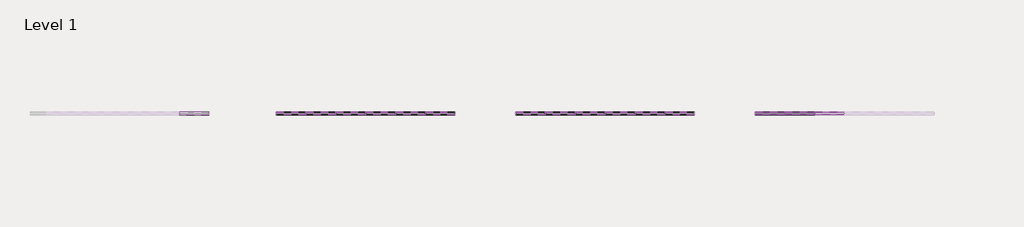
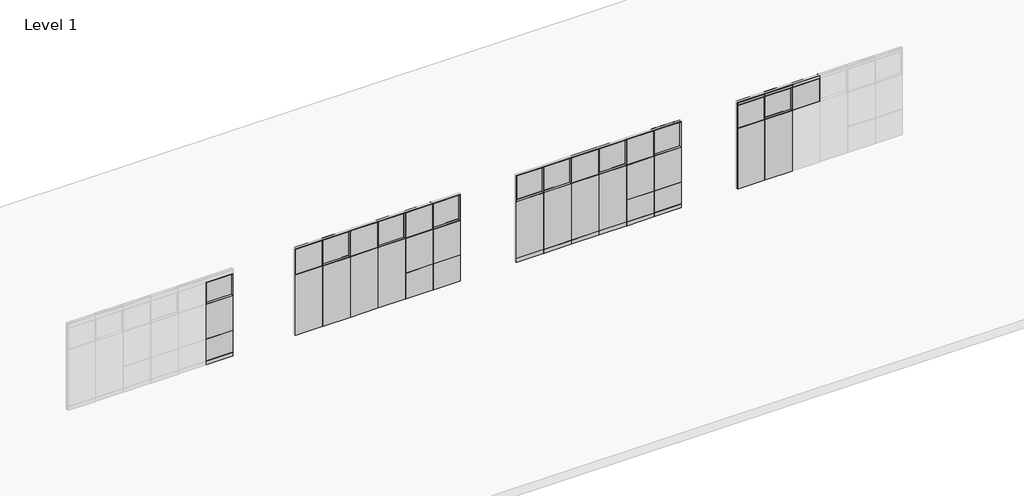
# One storey, part 14 of 22: 109 proxies.
"""IFC4 building model written with IfcOpenShell, lengths in millimetres."""

from ifc_helpers import new_model, si_unit, origin, place, context, project, spatial, transform, mapped, element, save
from components import fascia_teknion_ceiling_and_base_fpb1_0bfeef01, fascia_teknion_ceiling_and_base_fpb1_b9f04170, fascia_teknion_ceiling_and_base_fpb1_707b8d37, fascia_teknion_ceiling_and_base_fpb1_816009f4, fascia_teknion_ceiling_and_base_fpb1_c09701a2, fascia_teknion_ceiling_and_base_fpb1_cd47c96b, fascia_teknion_ceiling_and_base_fpc_0fdf7194, fascia_teknion_ceiling_and_base_fpc_b0ac7cd3, frame_teknion_horizontal_rail_5872ae1a, frame_teknion_horizontal_rail_46ee653b, glass_fascia_6f81bcf7, glass_fascia_75a64c95, glass_fascia_467b1f08, glass_fascia_2d5cffca, glass_fascia_d2a417b3, glass_fascia_b43ce2ad, glass_fascia_649ace3c, glass_fascia_c5390191, working_wall_monolithic_level_i_0fd3c68e, working_wall_monolithic_level_i_40b02bc1, level_ii_766fe766, level_ii_d745e7d9, level_ii_52e50c64, level_ii_09c6d2e8, segmented_monolithic_level_i_c740ac9f, segmented_monolithic_level_i_1ec0774b, segmented_monolithic_level_i_c631dfd0, segmented_monolithic_level_i_f7c86621, segmented_monolithic_level_i_79c8b360, segmented_monolithic_level_i_954095a9, segmented_monolithic_level_i_12355878, segmented_monolithic_level_i_a90e165b, working_wall_monolithic_level_i_0b7852cd, working_wall_monolithic_level_i_72bc8cad, working_wall_monolithic_level_i_9d4bea93, working_wall_monolithic_level_i_ddf61f7f, working_wall_monolithic_level_i_49ea217e, working_wall_monolithic_level_i_39047d6b

model = new_model("IFC4")

# Units and contexts
model_context = context("Model", 3, world=origin())
ifc_project = project(units=[si_unit("LENGTHUNIT", "METRE", prefix="MILLI")], contexts=[model_context])

# Site, building, storey
site = spatial("IfcSite", under=ifc_project)
building = spatial("IfcBuilding", under=site)
storey = spatial("IfcBuildingStorey", under=building, Name="Level 1", Elevation=0.0)

# Proxies
placement = place(None, origin())
fascia_teknion_ceiling_and_base_fpb1_shape = fascia_teknion_ceiling_and_base_fpb1_0bfeef01(model_context)
element("IfcBuildingElementProxy", 1, Name="Fascia-Teknion-Ceiling_and_Base : FPB1", ObjectType="Fascia-Teknion-Ceiling_and_Base : FPB1", at=placement, inside=storey, context=model_context, shape_type="MappedRepresentation", body=[
    mapped(fascia_teknion_ceiling_and_base_fpb1_shape, transform((36696.9908134, 1843.3402105, 15.875), x_axis=(1.0, 0.0, 0.0), y_axis=(0.0, 1.0, 0.0), z_axis=(0.0, 0.0, 1.0))),
])
element("IfcBuildingElementProxy", 2, Name="Fascia-Teknion-Ceiling_and_Base : FPB1", ObjectType="Fascia-Teknion-Ceiling_and_Base : FPB1", at=placement, inside=storey, context=model_context, shape_type="MappedRepresentation", body=[
    mapped(fascia_teknion_ceiling_and_base_fpb1_shape, transform((41255.0009696, 1843.3402105, 15.875), x_axis=(1.0, 0.0, 0.0), y_axis=(0.0, 1.0, 0.0), z_axis=(0.0, 0.0, 1.0))),
])
fascia_teknion_ceiling_and_base_fpb1_2_shape = fascia_teknion_ceiling_and_base_fpb1_b9f04170(model_context)
element("IfcBuildingElementProxy", 3, Name="Fascia-Teknion-Ceiling_and_Base : FPB1", ObjectType="Fascia-Teknion-Ceiling_and_Base : FPB1", at=placement, inside=storey, context=model_context, shape_type="MappedRepresentation", body=[
    mapped(fascia_teknion_ceiling_and_base_fpb1_2_shape, transform((36696.9908134, 1781.3642105, 15.875), x_axis=(1.0, 0.0, 0.0), y_axis=(0.0, 1.0, 0.0), z_axis=(0.0, 0.0, 1.0))),
])
element("IfcBuildingElementProxy", 4, Name="Fascia-Teknion-Ceiling_and_Base : FPB1", ObjectType="Fascia-Teknion-Ceiling_and_Base : FPB1", at=placement, inside=storey, context=model_context, shape_type="MappedRepresentation", body=[
    mapped(fascia_teknion_ceiling_and_base_fpb1_2_shape, transform((41255.0009696, 1781.3642105, 15.875), x_axis=(1.0, 0.0, 0.0), y_axis=(0.0, 1.0, 0.0), z_axis=(0.0, 0.0, 1.0))),
])
element("IfcBuildingElementProxy", 5, Name="Fascia-Teknion-Ceiling_and_Base : FPB1", ObjectType="Fascia-Teknion-Ceiling_and_Base : FPB1", at=placement, inside=storey, context=model_context, shape_type="MappedRepresentation", body=[
    mapped(fascia_teknion_ceiling_and_base_fpb1_2_shape, transform((26421.4009696, 1781.3642105, 15.875), x_axis=(1.0, 0.0, 0.0), y_axis=(0.0, 1.0, 0.0), z_axis=(0.0, 0.0, 1.0))),
])
fascia_teknion_ceiling_and_base_fpb1_3_shape = fascia_teknion_ceiling_and_base_fpb1_707b8d37(model_context)
element("IfcBuildingElementProxy", 6, Name="Fascia-Teknion-Ceiling_and_Base : FPB1", ObjectType="Fascia-Teknion-Ceiling_and_Base : FPB1", at=placement, inside=storey, context=model_context, shape_type="MappedRepresentation", body=[
    mapped(fascia_teknion_ceiling_and_base_fpb1_3_shape, transform((40347.5958915, 1781.3642105, 15.875), x_axis=(1.0, 0.0, 0.0), y_axis=(0.0, 1.0, 0.0), z_axis=(0.0, 0.0, 1.0))),
])
element("IfcBuildingElementProxy", 7, Name="Fascia-Teknion-Ceiling_and_Base : FPB1", ObjectType="Fascia-Teknion-Ceiling_and_Base : FPB1", at=placement, inside=storey, context=model_context, shape_type="MappedRepresentation", body=[
    mapped(fascia_teknion_ceiling_and_base_fpb1_3_shape, transform((39433.1958915, 1781.3642105, 15.875), x_axis=(1.0, 0.0, 0.0), y_axis=(0.0, 1.0, 0.0), z_axis=(0.0, 0.0, 1.0))),
])
element("IfcBuildingElementProxy", 8, Name="Fascia-Teknion-Ceiling_and_Base : FPB1", ObjectType="Fascia-Teknion-Ceiling_and_Base : FPB1", at=placement, inside=storey, context=model_context, shape_type="MappedRepresentation", body=[
    mapped(fascia_teknion_ceiling_and_base_fpb1_3_shape, transform((38518.7958915, 1781.3642105, 15.875), x_axis=(1.0, 0.0, 0.0), y_axis=(0.0, 1.0, 0.0), z_axis=(0.0, 0.0, 1.0))),
])
element("IfcBuildingElementProxy", 9, Name="Fascia-Teknion-Ceiling_and_Base : FPB1", ObjectType="Fascia-Teknion-Ceiling_and_Base : FPB1", at=placement, inside=storey, context=model_context, shape_type="MappedRepresentation", body=[
    mapped(fascia_teknion_ceiling_and_base_fpb1_3_shape, transform((37604.3958915, 1781.3642105, 15.875), x_axis=(1.0, 0.0, 0.0), y_axis=(0.0, 1.0, 0.0), z_axis=(0.0, 0.0, 1.0))),
])
fascia_teknion_ceiling_and_base_fpb1_4_shape = fascia_teknion_ceiling_and_base_fpb1_816009f4(model_context)
element("IfcBuildingElementProxy", 10, Name="Fascia-Teknion-Ceiling_and_Base : FPB1", ObjectType="Fascia-Teknion-Ceiling_and_Base : FPB1", at=placement, inside=storey, context=model_context, shape_type="MappedRepresentation", body=[
    mapped(fascia_teknion_ceiling_and_base_fpb1_4_shape, transform((40347.5958915, 1843.3402105, 15.875), x_axis=(1.0, 0.0, 0.0), y_axis=(0.0, 1.0, 0.0), z_axis=(0.0, 0.0, 1.0))),
])
element("IfcBuildingElementProxy", 11, Name="Fascia-Teknion-Ceiling_and_Base : FPB1", ObjectType="Fascia-Teknion-Ceiling_and_Base : FPB1", at=placement, inside=storey, context=model_context, shape_type="MappedRepresentation", body=[
    mapped(fascia_teknion_ceiling_and_base_fpb1_4_shape, transform((39433.1958915, 1843.3402105, 15.875), x_axis=(1.0, 0.0, 0.0), y_axis=(0.0, 1.0, 0.0), z_axis=(0.0, 0.0, 1.0))),
])
element("IfcBuildingElementProxy", 12, Name="Fascia-Teknion-Ceiling_and_Base : FPB1", ObjectType="Fascia-Teknion-Ceiling_and_Base : FPB1", at=placement, inside=storey, context=model_context, shape_type="MappedRepresentation", body=[
    mapped(fascia_teknion_ceiling_and_base_fpb1_4_shape, transform((38518.7958915, 1843.3402105, 15.875), x_axis=(1.0, 0.0, 0.0), y_axis=(0.0, 1.0, 0.0), z_axis=(0.0, 0.0, 1.0))),
])
element("IfcBuildingElementProxy", 13, Name="Fascia-Teknion-Ceiling_and_Base : FPB1", ObjectType="Fascia-Teknion-Ceiling_and_Base : FPB1", at=placement, inside=storey, context=model_context, shape_type="MappedRepresentation", body=[
    mapped(fascia_teknion_ceiling_and_base_fpb1_4_shape, transform((37604.3958915, 1843.3402105, 15.875), x_axis=(1.0, 0.0, 0.0), y_axis=(0.0, 1.0, 0.0), z_axis=(0.0, 0.0, 1.0))),
])
fascia_teknion_ceiling_and_base_fpb1_5_shape = fascia_teknion_ceiling_and_base_fpb1_c09701a2(model_context)
element("IfcBuildingElementProxy", 14, Name="Fascia-Teknion-Ceiling_and_Base : FPC", ObjectType="Fascia-Teknion-Ceiling_and_Base : FPC", at=placement, inside=storey, context=model_context, shape_type="MappedRepresentation", body=[
    mapped(fascia_teknion_ceiling_and_base_fpb1_5_shape, transform((44012.1908134, 1781.3642105, 2950.845), x_axis=(1.0, 0.0, 0.0), y_axis=(0.0, 1.0, 0.0), z_axis=(0.0, 0.0, 1.0))),
])
fascia_teknion_ceiling_and_base_fpb1_6_shape = fascia_teknion_ceiling_and_base_fpb1_cd47c96b(model_context)
element("IfcBuildingElementProxy", 15, Name="Fascia-Teknion-Ceiling_and_Base : FPC", ObjectType="Fascia-Teknion-Ceiling_and_Base : FPC", at=placement, inside=storey, context=model_context, shape_type="MappedRepresentation", body=[
    mapped(fascia_teknion_ceiling_and_base_fpb1_6_shape, transform((44012.1908134, 1843.3402105, 2950.845), x_axis=(1.0, 0.0, 0.0), y_axis=(0.0, 1.0, 0.0), z_axis=(0.0, 0.0, 1.0))),
])
fascia_teknion_ceiling_and_base_fpc_shape = fascia_teknion_ceiling_and_base_fpc_0fdf7194(model_context)
element("IfcBuildingElementProxy", 16, Name="Fascia-Teknion-Ceiling_and_Base : FPC", ObjectType="Fascia-Teknion-Ceiling_and_Base : FPC", at=placement, inside=storey, context=model_context, shape_type="MappedRepresentation", body=[
    mapped(fascia_teknion_ceiling_and_base_fpc_shape, transform((45833.9958915, 1781.3642105, 2950.845), x_axis=(1.0, 0.0, 0.0), y_axis=(0.0, 1.0, 0.0), z_axis=(0.0, 0.0, 1.0))),
])
element("IfcBuildingElementProxy", 17, Name="Fascia-Teknion-Ceiling_and_Base : FPC", ObjectType="Fascia-Teknion-Ceiling_and_Base : FPC", at=placement, inside=storey, context=model_context, shape_type="MappedRepresentation", body=[
    mapped(fascia_teknion_ceiling_and_base_fpc_shape, transform((44919.5958915, 1781.3642105, 2950.845), x_axis=(1.0, 0.0, 0.0), y_axis=(0.0, 1.0, 0.0), z_axis=(0.0, 0.0, 1.0))),
])
fascia_teknion_ceiling_and_base_fpc_2_shape = fascia_teknion_ceiling_and_base_fpc_b0ac7cd3(model_context)
element("IfcBuildingElementProxy", 18, Name="Fascia-Teknion-Ceiling_and_Base : FPC", ObjectType="Fascia-Teknion-Ceiling_and_Base : FPC", at=placement, inside=storey, context=model_context, shape_type="MappedRepresentation", body=[
    mapped(fascia_teknion_ceiling_and_base_fpc_2_shape, transform((45833.9958915, 1843.3402105, 2950.845), x_axis=(1.0, 0.0, 0.0), y_axis=(0.0, 1.0, 0.0), z_axis=(0.0, 0.0, 1.0))),
])
element("IfcBuildingElementProxy", 19, Name="Fascia-Teknion-Ceiling_and_Base : FPC", ObjectType="Fascia-Teknion-Ceiling_and_Base : FPC", at=placement, inside=storey, context=model_context, shape_type="MappedRepresentation", body=[
    mapped(fascia_teknion_ceiling_and_base_fpc_2_shape, transform((44919.5958915, 1843.3402105, 2950.845), x_axis=(1.0, 0.0, 0.0), y_axis=(0.0, 1.0, 0.0), z_axis=(0.0, 0.0, 1.0))),
])
frame_teknion_horizontal_rail_shape = frame_teknion_horizontal_rail_5872ae1a(model_context)
element("IfcBuildingElementProxy", 20, Name="Frame-Teknion-Horizontal_Rail : FPKK", ObjectType="Frame-Teknion-Horizontal_Rail : FPKK", at=placement, inside=storey, context=model_context, shape_type="MappedRepresentation", body=[
    mapped(frame_teknion_horizontal_rail_shape, transform((29381.7908134, 1812.3522105, 2136.775), x_axis=(1.0, 0.0, 0.0), y_axis=(0.0, 1.0, 0.0), z_axis=(0.0, 0.0, 1.0))),
])
element("IfcBuildingElementProxy", 21, Name="Frame-Teknion-Horizontal_Rail : FPKK", ObjectType="Frame-Teknion-Horizontal_Rail : FPKK", at=placement, inside=storey, context=model_context, shape_type="MappedRepresentation", body=[
    mapped(frame_teknion_horizontal_rail_shape, transform((33939.8009696, 1812.3522105, 2136.775), x_axis=(1.0, 0.0, 0.0), y_axis=(0.0, 1.0, 0.0), z_axis=(0.0, 0.0, 1.0))),
])
element("IfcBuildingElementProxy", 22, Name="Frame-Teknion-Horizontal_Rail : FPKK", ObjectType="Frame-Teknion-Horizontal_Rail : FPKK", at=placement, inside=storey, context=model_context, shape_type="MappedRepresentation", body=[
    mapped(frame_teknion_horizontal_rail_shape, transform((33939.8009696, 1812.3522105, 917.575), x_axis=(1.0, 0.0, 0.0), y_axis=(0.0, 1.0, 0.0), z_axis=(0.0, 0.0, 1.0))),
])
element("IfcBuildingElementProxy", 23, Name="Frame-Teknion-Horizontal_Rail : FPKK", ObjectType="Frame-Teknion-Horizontal_Rail : FPKK", at=placement, inside=storey, context=model_context, shape_type="MappedRepresentation", body=[
    mapped(frame_teknion_horizontal_rail_shape, transform((36696.9908134, 1812.3522105, 151.257), x_axis=(1.0, 0.0, 0.0), y_axis=(0.0, 1.0, 0.0), z_axis=(0.0, 0.0, 1.0))),
])
element("IfcBuildingElementProxy", 24, Name="Frame-Teknion-Horizontal_Rail : FPKK", ObjectType="Frame-Teknion-Horizontal_Rail : FPKK", at=placement, inside=storey, context=model_context, shape_type="MappedRepresentation", body=[
    mapped(frame_teknion_horizontal_rail_shape, transform((36696.9908134, 1812.3522105, 2136.775), x_axis=(1.0, 0.0, 0.0), y_axis=(0.0, 1.0, 0.0), z_axis=(0.0, 0.0, 1.0))),
])
element("IfcBuildingElementProxy", 25, Name="Frame-Teknion-Horizontal_Rail : FPKK", ObjectType="Frame-Teknion-Horizontal_Rail : FPKK", at=placement, inside=storey, context=model_context, shape_type="MappedRepresentation", body=[
    mapped(frame_teknion_horizontal_rail_shape, transform((41255.0009696, 1812.3522105, 2136.775), x_axis=(1.0, 0.0, 0.0), y_axis=(0.0, 1.0, 0.0), z_axis=(0.0, 0.0, 1.0))),
])
element("IfcBuildingElementProxy", 26, Name="Frame-Teknion-Horizontal_Rail : FPKK", ObjectType="Frame-Teknion-Horizontal_Rail : FPKK", at=placement, inside=storey, context=model_context, shape_type="MappedRepresentation", body=[
    mapped(frame_teknion_horizontal_rail_shape, transform((41255.0009696, 1812.3522105, 151.257), x_axis=(1.0, 0.0, 0.0), y_axis=(0.0, 1.0, 0.0), z_axis=(0.0, 0.0, 1.0))),
])
element("IfcBuildingElementProxy", 27, Name="Frame-Teknion-Horizontal_Rail : FPKK", ObjectType="Frame-Teknion-Horizontal_Rail : FPKK", at=placement, inside=storey, context=model_context, shape_type="MappedRepresentation", body=[
    mapped(frame_teknion_horizontal_rail_shape, transform((41255.0009696, 1812.3522105, 917.575), x_axis=(1.0, 0.0, 0.0), y_axis=(0.0, 1.0, 0.0), z_axis=(0.0, 0.0, 1.0))),
])
element("IfcBuildingElementProxy", 28, Name="Frame-Teknion-Horizontal_Rail : FPKK", ObjectType="Frame-Teknion-Horizontal_Rail : FPKK", at=placement, inside=storey, context=model_context, shape_type="MappedRepresentation", body=[
    mapped(frame_teknion_horizontal_rail_shape, transform((44012.1908134, 1812.3522105, 2949.1305), x_axis=(1.0, 0.0, 0.0), y_axis=(0.0, 1.0, 0.0), z_axis=(0.0, 0.0, 1.0))),
])
element("IfcBuildingElementProxy", 29, Name="Frame-Teknion-Horizontal_Rail : FPKK", ObjectType="Frame-Teknion-Horizontal_Rail : FPKK", at=placement, inside=storey, context=model_context, shape_type="MappedRepresentation", body=[
    mapped(frame_teknion_horizontal_rail_shape, transform((44012.1908134, 1812.3522105, 2136.775), x_axis=(1.0, 0.0, 0.0), y_axis=(0.0, 1.0, 0.0), z_axis=(0.0, 0.0, 1.0))),
])
frame_teknion_horizontal_rail_2_shape = frame_teknion_horizontal_rail_46ee653b(model_context)
element("IfcBuildingElementProxy", 30, Name="Frame-Teknion-Horizontal_Rail : FPKK", ObjectType="Frame-Teknion-Horizontal_Rail : FPKK", at=placement, inside=storey, context=model_context, shape_type="MappedRepresentation", body=[
    mapped(frame_teknion_horizontal_rail_2_shape, transform((33032.3958915, 1812.3522105, 2136.775), x_axis=(1.0, 0.0, 0.0), y_axis=(0.0, 1.0, 0.0), z_axis=(0.0, 0.0, 1.0))),
])
element("IfcBuildingElementProxy", 31, Name="Frame-Teknion-Horizontal_Rail : FPKK", ObjectType="Frame-Teknion-Horizontal_Rail : FPKK", at=placement, inside=storey, context=model_context, shape_type="MappedRepresentation", body=[
    mapped(frame_teknion_horizontal_rail_2_shape, transform((32117.9958915, 1812.3522105, 2136.775), x_axis=(1.0, 0.0, 0.0), y_axis=(0.0, 1.0, 0.0), z_axis=(0.0, 0.0, 1.0))),
])
element("IfcBuildingElementProxy", 32, Name="Frame-Teknion-Horizontal_Rail : FPKK", ObjectType="Frame-Teknion-Horizontal_Rail : FPKK", at=placement, inside=storey, context=model_context, shape_type="MappedRepresentation", body=[
    mapped(frame_teknion_horizontal_rail_2_shape, transform((31203.5958915, 1812.3522105, 2136.775), x_axis=(1.0, 0.0, 0.0), y_axis=(0.0, 1.0, 0.0), z_axis=(0.0, 0.0, 1.0))),
])
element("IfcBuildingElementProxy", 33, Name="Frame-Teknion-Horizontal_Rail : FPKK", ObjectType="Frame-Teknion-Horizontal_Rail : FPKK", at=placement, inside=storey, context=model_context, shape_type="MappedRepresentation", body=[
    mapped(frame_teknion_horizontal_rail_2_shape, transform((30289.1958915, 1812.3522105, 2136.775), x_axis=(1.0, 0.0, 0.0), y_axis=(0.0, 1.0, 0.0), z_axis=(0.0, 0.0, 1.0))),
])
element("IfcBuildingElementProxy", 34, Name="Frame-Teknion-Horizontal_Rail : FPKK", ObjectType="Frame-Teknion-Horizontal_Rail : FPKK", at=placement, inside=storey, context=model_context, shape_type="MappedRepresentation", body=[
    mapped(frame_teknion_horizontal_rail_2_shape, transform((31203.5958915, 1812.3522105, 917.575), x_axis=(1.0, 0.0, 0.0), y_axis=(0.0, 1.0, 0.0), z_axis=(0.0, 0.0, 1.0))),
])
element("IfcBuildingElementProxy", 35, Name="Frame-Teknion-Horizontal_Rail : FPKK", ObjectType="Frame-Teknion-Horizontal_Rail : FPKK", at=placement, inside=storey, context=model_context, shape_type="MappedRepresentation", body=[
    mapped(frame_teknion_horizontal_rail_2_shape, transform((32117.9958915, 1812.3522105, 917.575), x_axis=(1.0, 0.0, 0.0), y_axis=(0.0, 1.0, 0.0), z_axis=(0.0, 0.0, 1.0))),
])
element("IfcBuildingElementProxy", 36, Name="Frame-Teknion-Horizontal_Rail : FPKK", ObjectType="Frame-Teknion-Horizontal_Rail : FPKK", at=placement, inside=storey, context=model_context, shape_type="MappedRepresentation", body=[
    mapped(frame_teknion_horizontal_rail_2_shape, transform((33032.3958915, 1812.3522105, 917.575), x_axis=(1.0, 0.0, 0.0), y_axis=(0.0, 1.0, 0.0), z_axis=(0.0, 0.0, 1.0))),
])
element("IfcBuildingElementProxy", 37, Name="Frame-Teknion-Horizontal_Rail : FPKK", ObjectType="Frame-Teknion-Horizontal_Rail : FPKK", at=placement, inside=storey, context=model_context, shape_type="MappedRepresentation", body=[
    mapped(frame_teknion_horizontal_rail_2_shape, transform((40347.5958915, 1812.3522105, 2136.775), x_axis=(1.0, 0.0, 0.0), y_axis=(0.0, 1.0, 0.0), z_axis=(0.0, 0.0, 1.0))),
])
element("IfcBuildingElementProxy", 38, Name="Frame-Teknion-Horizontal_Rail : FPKK", ObjectType="Frame-Teknion-Horizontal_Rail : FPKK", at=placement, inside=storey, context=model_context, shape_type="MappedRepresentation", body=[
    mapped(frame_teknion_horizontal_rail_2_shape, transform((40347.5958915, 1812.3522105, 151.257), x_axis=(1.0, 0.0, 0.0), y_axis=(0.0, 1.0, 0.0), z_axis=(0.0, 0.0, 1.0))),
])
element("IfcBuildingElementProxy", 39, Name="Frame-Teknion-Horizontal_Rail : FPKK", ObjectType="Frame-Teknion-Horizontal_Rail : FPKK", at=placement, inside=storey, context=model_context, shape_type="MappedRepresentation", body=[
    mapped(frame_teknion_horizontal_rail_2_shape, transform((39433.1958915, 1812.3522105, 2136.775), x_axis=(1.0, 0.0, 0.0), y_axis=(0.0, 1.0, 0.0), z_axis=(0.0, 0.0, 1.0))),
])
element("IfcBuildingElementProxy", 40, Name="Frame-Teknion-Horizontal_Rail : FPKK", ObjectType="Frame-Teknion-Horizontal_Rail : FPKK", at=placement, inside=storey, context=model_context, shape_type="MappedRepresentation", body=[
    mapped(frame_teknion_horizontal_rail_2_shape, transform((39433.1958915, 1812.3522105, 151.257), x_axis=(1.0, 0.0, 0.0), y_axis=(0.0, 1.0, 0.0), z_axis=(0.0, 0.0, 1.0))),
])
element("IfcBuildingElementProxy", 41, Name="Frame-Teknion-Horizontal_Rail : FPKK", ObjectType="Frame-Teknion-Horizontal_Rail : FPKK", at=placement, inside=storey, context=model_context, shape_type="MappedRepresentation", body=[
    mapped(frame_teknion_horizontal_rail_2_shape, transform((38518.7958915, 1812.3522105, 2136.775), x_axis=(1.0, 0.0, 0.0), y_axis=(0.0, 1.0, 0.0), z_axis=(0.0, 0.0, 1.0))),
])
element("IfcBuildingElementProxy", 42, Name="Frame-Teknion-Horizontal_Rail : FPKK", ObjectType="Frame-Teknion-Horizontal_Rail : FPKK", at=placement, inside=storey, context=model_context, shape_type="MappedRepresentation", body=[
    mapped(frame_teknion_horizontal_rail_2_shape, transform((38518.7958915, 1812.3522105, 151.257), x_axis=(1.0, 0.0, 0.0), y_axis=(0.0, 1.0, 0.0), z_axis=(0.0, 0.0, 1.0))),
])
element("IfcBuildingElementProxy", 43, Name="Frame-Teknion-Horizontal_Rail : FPKK", ObjectType="Frame-Teknion-Horizontal_Rail : FPKK", at=placement, inside=storey, context=model_context, shape_type="MappedRepresentation", body=[
    mapped(frame_teknion_horizontal_rail_2_shape, transform((37604.3958915, 1812.3522105, 2136.775), x_axis=(1.0, 0.0, 0.0), y_axis=(0.0, 1.0, 0.0), z_axis=(0.0, 0.0, 1.0))),
])
element("IfcBuildingElementProxy", 44, Name="Frame-Teknion-Horizontal_Rail : FPKK", ObjectType="Frame-Teknion-Horizontal_Rail : FPKK", at=placement, inside=storey, context=model_context, shape_type="MappedRepresentation", body=[
    mapped(frame_teknion_horizontal_rail_2_shape, transform((37604.3958915, 1812.3522105, 151.257), x_axis=(1.0, 0.0, 0.0), y_axis=(0.0, 1.0, 0.0), z_axis=(0.0, 0.0, 1.0))),
])
element("IfcBuildingElementProxy", 45, Name="Frame-Teknion-Horizontal_Rail : FPKK", ObjectType="Frame-Teknion-Horizontal_Rail : FPKK", at=placement, inside=storey, context=model_context, shape_type="MappedRepresentation", body=[
    mapped(frame_teknion_horizontal_rail_2_shape, transform((40347.5958915, 1812.3522105, 917.575), x_axis=(1.0, 0.0, 0.0), y_axis=(0.0, 1.0, 0.0), z_axis=(0.0, 0.0, 1.0))),
])
element("IfcBuildingElementProxy", 46, Name="Frame-Teknion-Horizontal_Rail : FPKK", ObjectType="Frame-Teknion-Horizontal_Rail : FPKK", at=placement, inside=storey, context=model_context, shape_type="MappedRepresentation", body=[
    mapped(frame_teknion_horizontal_rail_2_shape, transform((45833.9958915, 1812.3522105, 2136.775), x_axis=(1.0, 0.0, 0.0), y_axis=(0.0, 1.0, 0.0), z_axis=(0.0, 0.0, 1.0))),
])
element("IfcBuildingElementProxy", 47, Name="Frame-Teknion-Horizontal_Rail : FPKK", ObjectType="Frame-Teknion-Horizontal_Rail : FPKK", at=placement, inside=storey, context=model_context, shape_type="MappedRepresentation", body=[
    mapped(frame_teknion_horizontal_rail_2_shape, transform((45833.9958915, 1812.3522105, 2949.1305), x_axis=(1.0, 0.0, 0.0), y_axis=(0.0, 1.0, 0.0), z_axis=(0.0, 0.0, 1.0))),
])
element("IfcBuildingElementProxy", 48, Name="Frame-Teknion-Horizontal_Rail : FPKK", ObjectType="Frame-Teknion-Horizontal_Rail : FPKK", at=placement, inside=storey, context=model_context, shape_type="MappedRepresentation", body=[
    mapped(frame_teknion_horizontal_rail_2_shape, transform((44919.5958915, 1812.3522105, 2136.775), x_axis=(1.0, 0.0, 0.0), y_axis=(0.0, 1.0, 0.0), z_axis=(0.0, 0.0, 1.0))),
])
element("IfcBuildingElementProxy", 49, Name="Frame-Teknion-Horizontal_Rail : FPKK", ObjectType="Frame-Teknion-Horizontal_Rail : FPKK", at=placement, inside=storey, context=model_context, shape_type="MappedRepresentation", body=[
    mapped(frame_teknion_horizontal_rail_2_shape, transform((44919.5958915, 1812.3522105, 2949.1305), x_axis=(1.0, 0.0, 0.0), y_axis=(0.0, 1.0, 0.0), z_axis=(0.0, 0.0, 1.0))),
])
glass_fascia_shape = glass_fascia_6f81bcf7(model_context)
element("IfcBuildingElementProxy", 50, Name="Panel-Fascia-Teknion-Altos-Glass : Glass Fascia", ObjectType="Panel-Fascia-Teknion-Altos-Glass : Glass Fascia", at=placement, inside=storey, context=model_context, shape_type="MappedRepresentation", body=[
    mapped(glass_fascia_shape, transform((29381.7908134, 1812.3522105, 2136.775), x_axis=(1.0, 0.0, 0.0), y_axis=(0.0, 1.0, 0.0), z_axis=(0.0, 0.0, 1.0))),
])
glass_fascia_2_shape = glass_fascia_75a64c95(model_context)
element("IfcBuildingElementProxy", 51, Name="Panel-Fascia-Teknion-Altos-Glass : Glass Fascia", ObjectType="Panel-Fascia-Teknion-Altos-Glass : Glass Fascia", at=placement, inside=storey, context=model_context, shape_type="MappedRepresentation", body=[
    mapped(glass_fascia_2_shape, transform((33939.8009696, 1812.3522105, 2136.775), x_axis=(1.0, 0.0, 0.0), y_axis=(0.0, 1.0, 0.0), z_axis=(0.0, 0.0, 1.0))),
])
element("IfcBuildingElementProxy", 52, Name="Panel-Fascia-Teknion-Altos-Glass : Glass Fascia", ObjectType="Panel-Fascia-Teknion-Altos-Glass : Glass Fascia", at=placement, inside=storey, context=model_context, shape_type="MappedRepresentation", body=[
    mapped(glass_fascia_2_shape, transform((36696.9908134, 1812.3522105, 2136.775), x_axis=(1.0, 0.0, 0.0), y_axis=(0.0, 1.0, 0.0), z_axis=(0.0, 0.0, 1.0))),
])
element("IfcBuildingElementProxy", 53, Name="Panel-Fascia-Teknion-Altos-Glass : Glass Fascia", ObjectType="Panel-Fascia-Teknion-Altos-Glass : Glass Fascia", at=placement, inside=storey, context=model_context, shape_type="MappedRepresentation", body=[
    mapped(glass_fascia_2_shape, transform((41255.0009696, 1812.3522105, 2136.775), x_axis=(1.0, 0.0, 0.0), y_axis=(0.0, 1.0, 0.0), z_axis=(0.0, 0.0, 1.0))),
])
glass_fascia_3_shape = glass_fascia_467b1f08(model_context)
element("IfcBuildingElementProxy", 54, Name="Panel-Fascia-Teknion-Altos-Glass : Glass Fascia", ObjectType="Panel-Fascia-Teknion-Altos-Glass : Glass Fascia", at=placement, inside=storey, context=model_context, shape_type="MappedRepresentation", body=[
    mapped(glass_fascia_3_shape, transform((33032.3958915, 1812.3522105, 2136.775), x_axis=(1.0, 0.0, 0.0), y_axis=(0.0, 1.0, 0.0), z_axis=(0.0, 0.0, 1.0))),
])
element("IfcBuildingElementProxy", 55, Name="Panel-Fascia-Teknion-Altos-Glass : Glass Fascia", ObjectType="Panel-Fascia-Teknion-Altos-Glass : Glass Fascia", at=placement, inside=storey, context=model_context, shape_type="MappedRepresentation", body=[
    mapped(glass_fascia_3_shape, transform((31203.5958915, 1812.3522105, 2136.775), x_axis=(1.0, 0.0, 0.0), y_axis=(0.0, 1.0, 0.0), z_axis=(0.0, 0.0, 1.0))),
])
element("IfcBuildingElementProxy", 56, Name="Panel-Fascia-Teknion-Altos-Glass : Glass Fascia", ObjectType="Panel-Fascia-Teknion-Altos-Glass : Glass Fascia", at=placement, inside=storey, context=model_context, shape_type="MappedRepresentation", body=[
    mapped(glass_fascia_3_shape, transform((40347.5958915, 1812.3522105, 2136.775), x_axis=(1.0, 0.0, 0.0), y_axis=(0.0, 1.0, 0.0), z_axis=(0.0, 0.0, 1.0))),
])
element("IfcBuildingElementProxy", 57, Name="Panel-Fascia-Teknion-Altos-Glass : Glass Fascia", ObjectType="Panel-Fascia-Teknion-Altos-Glass : Glass Fascia", at=placement, inside=storey, context=model_context, shape_type="MappedRepresentation", body=[
    mapped(glass_fascia_3_shape, transform((38518.7958915, 1812.3522105, 2136.775), x_axis=(1.0, 0.0, 0.0), y_axis=(0.0, 1.0, 0.0), z_axis=(0.0, 0.0, 1.0))),
])
glass_fascia_4_shape = glass_fascia_2d5cffca(model_context)
element("IfcBuildingElementProxy", 58, Name="Panel-Fascia-Teknion-Altos-Glass : Glass Fascia", ObjectType="Panel-Fascia-Teknion-Altos-Glass : Glass Fascia", at=placement, inside=storey, context=model_context, shape_type="MappedRepresentation", body=[
    mapped(glass_fascia_4_shape, transform((32117.9958915, 1812.3522105, 2136.775), x_axis=(1.0, 0.0, 0.0), y_axis=(0.0, 1.0, 0.0), z_axis=(0.0, 0.0, 1.0))),
])
element("IfcBuildingElementProxy", 59, Name="Panel-Fascia-Teknion-Altos-Glass : Glass Fascia", ObjectType="Panel-Fascia-Teknion-Altos-Glass : Glass Fascia", at=placement, inside=storey, context=model_context, shape_type="MappedRepresentation", body=[
    mapped(glass_fascia_4_shape, transform((30289.1958915, 1812.3522105, 2136.775), x_axis=(1.0, 0.0, 0.0), y_axis=(0.0, 1.0, 0.0), z_axis=(0.0, 0.0, 1.0))),
])
element("IfcBuildingElementProxy", 60, Name="Panel-Fascia-Teknion-Altos-Glass : Glass Fascia", ObjectType="Panel-Fascia-Teknion-Altos-Glass : Glass Fascia", at=placement, inside=storey, context=model_context, shape_type="MappedRepresentation", body=[
    mapped(glass_fascia_4_shape, transform((39433.1958915, 1812.3522105, 2136.775), x_axis=(1.0, 0.0, 0.0), y_axis=(0.0, 1.0, 0.0), z_axis=(0.0, 0.0, 1.0))),
])
element("IfcBuildingElementProxy", 61, Name="Panel-Fascia-Teknion-Altos-Glass : Glass Fascia", ObjectType="Panel-Fascia-Teknion-Altos-Glass : Glass Fascia", at=placement, inside=storey, context=model_context, shape_type="MappedRepresentation", body=[
    mapped(glass_fascia_4_shape, transform((37604.3958915, 1812.3522105, 2136.775), x_axis=(1.0, 0.0, 0.0), y_axis=(0.0, 1.0, 0.0), z_axis=(0.0, 0.0, 1.0))),
])
glass_fascia_5_shape = glass_fascia_d2a417b3(model_context)
element("IfcBuildingElementProxy", 62, Name="Panel-Fascia-Teknion-Altos-Glass : Glass Fascia", ObjectType="Panel-Fascia-Teknion-Altos-Glass : Glass Fascia", at=placement, inside=storey, context=model_context, shape_type="MappedRepresentation", body=[
    mapped(glass_fascia_5_shape, transform((44012.1908134, 1812.3522105, 2136.775), x_axis=(1.0, 0.0, 0.0), y_axis=(0.0, 1.0, 0.0), z_axis=(0.0, 0.0, 1.0))),
])
glass_fascia_6_shape = glass_fascia_b43ce2ad(model_context)
element("IfcBuildingElementProxy", 63, Name="Panel-Fascia-Teknion-Altos-Glass : Glass Fascia", ObjectType="Panel-Fascia-Teknion-Altos-Glass : Glass Fascia", at=placement, inside=storey, context=model_context, shape_type="MappedRepresentation", body=[
    mapped(glass_fascia_6_shape, transform((45833.9958915, 1812.3522105, 2136.775), x_axis=(1.0, 0.0, 0.0), y_axis=(0.0, 1.0, 0.0), z_axis=(0.0, 0.0, 1.0))),
])
glass_fascia_7_shape = glass_fascia_649ace3c(model_context)
element("IfcBuildingElementProxy", 64, Name="Panel-Fascia-Teknion-Altos-Glass : Glass Fascia", ObjectType="Panel-Fascia-Teknion-Altos-Glass : Glass Fascia", at=placement, inside=storey, context=model_context, shape_type="MappedRepresentation", body=[
    mapped(glass_fascia_7_shape, transform((44919.5958915, 1812.3522105, 2136.775), x_axis=(1.0, 0.0, 0.0), y_axis=(0.0, 1.0, 0.0), z_axis=(0.0, 0.0, 1.0))),
])
glass_fascia_8_shape = glass_fascia_c5390191(model_context)
element("IfcBuildingElementProxy", 65, Name="Panel-Fascia-Teknion-Altos-Glass : Glass Fascia", ObjectType="Panel-Fascia-Teknion-Altos-Glass : Glass Fascia", at=placement, inside=storey, context=model_context, shape_type="MappedRepresentation", body=[
    mapped(glass_fascia_8_shape, transform((26421.4009696, 1812.3522105, 2136.775), x_axis=(1.0, 0.0, 0.0), y_axis=(0.0, 1.0, 0.0), z_axis=(0.0, 0.0, 1.0))),
])
working_wall_monolithic_level_i_shape = working_wall_monolithic_level_i_0fd3c68e(model_context)
element("IfcBuildingElementProxy", 66, Name="Panel-Fascia-Teknion-Altos-Standard : Level I", ObjectType="Panel-Fascia-Teknion-Altos-Standard : Level I", at=placement, inside=storey, context=model_context, shape_type="MappedRepresentation", body=[
    mapped(working_wall_monolithic_level_i_shape, transform((26421.4009696, 1852.8652105, 151.257), x_axis=(1.0, 0.0, 0.0), y_axis=(0.0, 1.0, 0.0), z_axis=(0.0, 0.0, 1.0))),
])
working_wall_monolithic_level_i_2_shape = working_wall_monolithic_level_i_40b02bc1(model_context)
element("IfcBuildingElementProxy", 67, Name="Panel-Fascia-Teknion-Altos-Standard : Level I", ObjectType="Panel-Fascia-Teknion-Altos-Standard : Level I", at=placement, inside=storey, context=model_context, shape_type="MappedRepresentation", body=[
    mapped(working_wall_monolithic_level_i_2_shape, transform((26421.4009696, 1771.8392105, 151.257), x_axis=(1.0, 0.0, 0.0), y_axis=(0.0, 1.0, 0.0), z_axis=(0.0, 0.0, 1.0))),
])
level_ii_shape = level_ii_766fe766(model_context)
element("IfcBuildingElementProxy", 68, Name="Panel-Fascia-Teknion-Altos : Level II", ObjectType="Panel-Fascia-Teknion-Altos : Level II", at=placement, inside=storey, context=model_context, shape_type="MappedRepresentation", body=[
    mapped(level_ii_shape, transform((41255.0009696, 1771.8392105, 917.575), x_axis=(1.0, 0.0, 0.0), y_axis=(0.0, 1.0, 0.0), z_axis=(0.0, 0.0, 1.0))),
])
level_ii_2_shape = level_ii_d745e7d9(model_context)
element("IfcBuildingElementProxy", 69, Name="Panel-Fascia-Teknion-Altos : Level II", ObjectType="Panel-Fascia-Teknion-Altos : Level II", at=placement, inside=storey, context=model_context, shape_type="MappedRepresentation", body=[
    mapped(level_ii_2_shape, transform((41255.0009696, 1852.8652105, 917.575), x_axis=(1.0, 0.0, 0.0), y_axis=(0.0, 1.0, 0.0), z_axis=(0.0, 0.0, 1.0))),
])
level_ii_3_shape = level_ii_52e50c64(model_context)
element("IfcBuildingElementProxy", 70, Name="Panel-Fascia-Teknion-Altos : Level II", ObjectType="Panel-Fascia-Teknion-Altos : Level II", at=placement, inside=storey, context=model_context, shape_type="MappedRepresentation", body=[
    mapped(level_ii_3_shape, transform((40347.5958915, 1771.8392105, 917.575), x_axis=(1.0, 0.0, 0.0), y_axis=(0.0, 1.0, 0.0), z_axis=(0.0, 0.0, 1.0))),
])
level_ii_4_shape = level_ii_09c6d2e8(model_context)
element("IfcBuildingElementProxy", 71, Name="Panel-Fascia-Teknion-Altos : Level II", ObjectType="Panel-Fascia-Teknion-Altos : Level II", at=placement, inside=storey, context=model_context, shape_type="MappedRepresentation", body=[
    mapped(level_ii_4_shape, transform((40347.5958915, 1852.8652105, 917.575), x_axis=(1.0, 0.0, 0.0), y_axis=(0.0, 1.0, 0.0), z_axis=(0.0, 0.0, 1.0))),
])
element("IfcBuildingElementProxy", 72, Name="Panel-Fascia-Teknion-Altos : Level II", ObjectType="Panel-Fascia-Teknion-Altos : Level II", at=placement, inside=storey, context=model_context, shape_type="MappedRepresentation", body=[
    mapped(level_ii_4_shape, transform((39433.1958915, 1852.8652105, 917.575), x_axis=(1.0, 0.0, 0.0), y_axis=(0.0, 1.0, 0.0), z_axis=(0.0, 0.0, 1.0))),
])
element("IfcBuildingElementProxy", 73, Name="Panel-Fascia-Teknion-Altos : Level II", ObjectType="Panel-Fascia-Teknion-Altos : Level II", at=placement, inside=storey, context=model_context, shape_type="MappedRepresentation", body=[
    mapped(level_ii_4_shape, transform((38518.7958915, 1852.8652105, 917.575), x_axis=(1.0, 0.0, 0.0), y_axis=(0.0, 1.0, 0.0), z_axis=(0.0, 0.0, 1.0))),
])
element("IfcBuildingElementProxy", 74, Name="Panel-Fascia-Teknion-Altos-Standard : Level II", ObjectType="Panel-Fascia-Teknion-Altos-Standard : Level II", at=placement, inside=storey, context=model_context, shape_type="MappedRepresentation", body=[
    mapped(level_ii_4_shape, transform((33032.3958915, 1852.8652105, 917.575), x_axis=(1.0, 0.0, 0.0), y_axis=(0.0, 1.0, 0.0), z_axis=(0.0, 0.0, 1.0))),
])
element("IfcBuildingElementProxy", 75, Name="Panel-Fascia-Teknion-Altos-Standard : Level II", ObjectType="Panel-Fascia-Teknion-Altos-Standard : Level II", at=placement, inside=storey, context=model_context, shape_type="MappedRepresentation", body=[
    mapped(level_ii_4_shape, transform((32117.9958915, 1852.8652105, 917.575), x_axis=(1.0, 0.0, 0.0), y_axis=(0.0, 1.0, 0.0), z_axis=(0.0, 0.0, 1.0))),
])
element("IfcBuildingElementProxy", 76, Name="Panel-Fascia-Teknion-Altos-Standard : Level II", ObjectType="Panel-Fascia-Teknion-Altos-Standard : Level II", at=placement, inside=storey, context=model_context, shape_type="MappedRepresentation", body=[
    mapped(level_ii_4_shape, transform((31203.5958915, 1852.8652105, 917.575), x_axis=(1.0, 0.0, 0.0), y_axis=(0.0, 1.0, 0.0), z_axis=(0.0, 0.0, 1.0))),
])
element("IfcBuildingElementProxy", 77, Name="Panel-Fascia-Teknion-Altos-Standard : Level II", ObjectType="Panel-Fascia-Teknion-Altos-Standard : Level II", at=placement, inside=storey, context=model_context, shape_type="MappedRepresentation", body=[
    mapped(level_ii_shape, transform((33939.8009696, 1771.8392105, 917.575), x_axis=(1.0, 0.0, 0.0), y_axis=(0.0, 1.0, 0.0), z_axis=(0.0, 0.0, 1.0))),
])
element("IfcBuildingElementProxy", 78, Name="Panel-Fascia-Teknion-Altos-Standard : Level II", ObjectType="Panel-Fascia-Teknion-Altos-Standard : Level II", at=placement, inside=storey, context=model_context, shape_type="MappedRepresentation", body=[
    mapped(level_ii_shape, transform((26421.4009696, 1771.8392105, 917.575), x_axis=(1.0, 0.0, 0.0), y_axis=(0.0, 1.0, 0.0), z_axis=(0.0, 0.0, 1.0))),
])
element("IfcBuildingElementProxy", 79, Name="Panel-Fascia-Teknion-Altos-Standard : Level II", ObjectType="Panel-Fascia-Teknion-Altos-Standard : Level II", at=placement, inside=storey, context=model_context, shape_type="MappedRepresentation", body=[
    mapped(level_ii_2_shape, transform((33939.8009696, 1852.8652105, 917.575), x_axis=(1.0, 0.0, 0.0), y_axis=(0.0, 1.0, 0.0), z_axis=(0.0, 0.0, 1.0))),
])
element("IfcBuildingElementProxy", 80, Name="Panel-Fascia-Teknion-Altos-Standard : Level II", ObjectType="Panel-Fascia-Teknion-Altos-Standard : Level II", at=placement, inside=storey, context=model_context, shape_type="MappedRepresentation", body=[
    mapped(level_ii_2_shape, transform((26421.4009696, 1852.8652105, 917.575), x_axis=(1.0, 0.0, 0.0), y_axis=(0.0, 1.0, 0.0), z_axis=(0.0, 0.0, 1.0))),
])
element("IfcBuildingElementProxy", 81, Name="Panel-Fascia-Teknion-Altos-Standard : Level II", ObjectType="Panel-Fascia-Teknion-Altos-Standard : Level II", at=placement, inside=storey, context=model_context, shape_type="MappedRepresentation", body=[
    mapped(level_ii_3_shape, transform((33032.3958915, 1771.8392105, 917.575), x_axis=(1.0, 0.0, 0.0), y_axis=(0.0, 1.0, 0.0), z_axis=(0.0, 0.0, 1.0))),
])
segmented_monolithic_level_i_shape = segmented_monolithic_level_i_c740ac9f(model_context)
element("IfcBuildingElementProxy", 82, Name="Panel-Fascia-Teknion-Altos : Segmented Monolithic Level I", ObjectType="Panel-Fascia-Teknion-Altos : Segmented Monolithic Level I", at=placement, inside=storey, context=model_context, shape_type="MappedRepresentation", body=[
    mapped(segmented_monolithic_level_i_shape, transform((36696.9908134, 1771.8392105, 151.257), x_axis=(1.0, 0.0, 0.0), y_axis=(0.0, 1.0, 0.0), z_axis=(0.0, 0.0, 1.0))),
])
segmented_monolithic_level_i_2_shape = segmented_monolithic_level_i_1ec0774b(model_context)
element("IfcBuildingElementProxy", 83, Name="Panel-Fascia-Teknion-Altos : Segmented Monolithic Level I", ObjectType="Panel-Fascia-Teknion-Altos : Segmented Monolithic Level I", at=placement, inside=storey, context=model_context, shape_type="MappedRepresentation", body=[
    mapped(segmented_monolithic_level_i_2_shape, transform((36696.9908134, 1852.8652105, 151.257), x_axis=(1.0, 0.0, 0.0), y_axis=(0.0, 1.0, 0.0), z_axis=(0.0, 0.0, 1.0))),
])
segmented_monolithic_level_i_3_shape = segmented_monolithic_level_i_c631dfd0(model_context)
element("IfcBuildingElementProxy", 84, Name="Panel-Fascia-Teknion-Altos : Segmented Monolithic Level I", ObjectType="Panel-Fascia-Teknion-Altos : Segmented Monolithic Level I", at=placement, inside=storey, context=model_context, shape_type="MappedRepresentation", body=[
    mapped(segmented_monolithic_level_i_3_shape, transform((39433.1958915, 1771.8392105, 151.257), x_axis=(1.0, 0.0, 0.0), y_axis=(0.0, 1.0, 0.0), z_axis=(0.0, 0.0, 1.0))),
])
element("IfcBuildingElementProxy", 85, Name="Panel-Fascia-Teknion-Altos : Segmented Monolithic Level I", ObjectType="Panel-Fascia-Teknion-Altos : Segmented Monolithic Level I", at=placement, inside=storey, context=model_context, shape_type="MappedRepresentation", body=[
    mapped(segmented_monolithic_level_i_3_shape, transform((38518.7958915, 1771.8392105, 151.257), x_axis=(1.0, 0.0, 0.0), y_axis=(0.0, 1.0, 0.0), z_axis=(0.0, 0.0, 1.0))),
])
element("IfcBuildingElementProxy", 86, Name="Panel-Fascia-Teknion-Altos : Segmented Monolithic Level I", ObjectType="Panel-Fascia-Teknion-Altos : Segmented Monolithic Level I", at=placement, inside=storey, context=model_context, shape_type="MappedRepresentation", body=[
    mapped(segmented_monolithic_level_i_3_shape, transform((37604.3958915, 1771.8392105, 151.257), x_axis=(1.0, 0.0, 0.0), y_axis=(0.0, 1.0, 0.0), z_axis=(0.0, 0.0, 1.0))),
])
segmented_monolithic_level_i_4_shape = segmented_monolithic_level_i_f7c86621(model_context)
element("IfcBuildingElementProxy", 87, Name="Panel-Fascia-Teknion-Altos : Segmented Monolithic Level I", ObjectType="Panel-Fascia-Teknion-Altos : Segmented Monolithic Level I", at=placement, inside=storey, context=model_context, shape_type="MappedRepresentation", body=[
    mapped(segmented_monolithic_level_i_4_shape, transform((37604.3958915, 1852.8652105, 151.257), x_axis=(1.0, 0.0, 0.0), y_axis=(0.0, 1.0, 0.0), z_axis=(0.0, 0.0, 1.0))),
])
segmented_monolithic_level_i_5_shape = segmented_monolithic_level_i_79c8b360(model_context)
element("IfcBuildingElementProxy", 88, Name="Panel-Fascia-Teknion-Altos-Standard : Segmented Monolithic Level I", ObjectType="Panel-Fascia-Teknion-Altos-Standard : Segmented Monolithic Level I", at=placement, inside=storey, context=model_context, shape_type="MappedRepresentation", body=[
    mapped(segmented_monolithic_level_i_5_shape, transform((30289.1958915, 1852.8652105, 12.7), x_axis=(1.0, 0.0, 0.0), y_axis=(0.0, 1.0, 0.0), z_axis=(0.0, 0.0, 1.0))),
])
element("IfcBuildingElementProxy", 89, Name="Panel-Fascia-Teknion-Altos-Standard : Segmented Monolithic Level I", ObjectType="Panel-Fascia-Teknion-Altos-Standard : Segmented Monolithic Level I", at=placement, inside=storey, context=model_context, shape_type="MappedRepresentation", body=[
    mapped(segmented_monolithic_level_i_5_shape, transform((44919.5958915, 1852.8652105, 12.7), x_axis=(1.0, 0.0, 0.0), y_axis=(0.0, 1.0, 0.0), z_axis=(0.0, 0.0, 1.0))),
])
segmented_monolithic_level_i_6_shape = segmented_monolithic_level_i_954095a9(model_context)
element("IfcBuildingElementProxy", 90, Name="Panel-Fascia-Teknion-Altos-Standard : Segmented Monolithic Level I", ObjectType="Panel-Fascia-Teknion-Altos-Standard : Segmented Monolithic Level I", at=placement, inside=storey, context=model_context, shape_type="MappedRepresentation", body=[
    mapped(segmented_monolithic_level_i_6_shape, transform((32117.9958915, 1771.8392105, 12.7), x_axis=(1.0, 0.0, 0.0), y_axis=(0.0, 1.0, 0.0), z_axis=(0.0, 0.0, 1.0))),
])
element("IfcBuildingElementProxy", 91, Name="Panel-Fascia-Teknion-Altos-Standard : Segmented Monolithic Level I", ObjectType="Panel-Fascia-Teknion-Altos-Standard : Segmented Monolithic Level I", at=placement, inside=storey, context=model_context, shape_type="MappedRepresentation", body=[
    mapped(segmented_monolithic_level_i_6_shape, transform((31203.5958915, 1771.8392105, 12.7), x_axis=(1.0, 0.0, 0.0), y_axis=(0.0, 1.0, 0.0), z_axis=(0.0, 0.0, 1.0))),
])
element("IfcBuildingElementProxy", 92, Name="Panel-Fascia-Teknion-Altos-Standard : Segmented Monolithic Level I", ObjectType="Panel-Fascia-Teknion-Altos-Standard : Segmented Monolithic Level I", at=placement, inside=storey, context=model_context, shape_type="MappedRepresentation", body=[
    mapped(segmented_monolithic_level_i_6_shape, transform((30289.1958915, 1771.8392105, 12.7), x_axis=(1.0, 0.0, 0.0), y_axis=(0.0, 1.0, 0.0), z_axis=(0.0, 0.0, 1.0))),
])
element("IfcBuildingElementProxy", 93, Name="Panel-Fascia-Teknion-Altos-Standard : Segmented Monolithic Level I", ObjectType="Panel-Fascia-Teknion-Altos-Standard : Segmented Monolithic Level I", at=placement, inside=storey, context=model_context, shape_type="MappedRepresentation", body=[
    mapped(segmented_monolithic_level_i_6_shape, transform((44919.5958915, 1771.8392105, 12.7), x_axis=(1.0, 0.0, 0.0), y_axis=(0.0, 1.0, 0.0), z_axis=(0.0, 0.0, 1.0))),
])
segmented_monolithic_level_i_7_shape = segmented_monolithic_level_i_12355878(model_context)
element("IfcBuildingElementProxy", 94, Name="Panel-Fascia-Teknion-Altos-Standard : Segmented Monolithic Level I", ObjectType="Panel-Fascia-Teknion-Altos-Standard : Segmented Monolithic Level I", at=placement, inside=storey, context=model_context, shape_type="MappedRepresentation", body=[
    mapped(segmented_monolithic_level_i_7_shape, transform((29381.7908134, 1771.8392105, 12.7), x_axis=(1.0, 0.0, 0.0), y_axis=(0.0, 1.0, 0.0), z_axis=(0.0, 0.0, 1.0))),
])
element("IfcBuildingElementProxy", 95, Name="Panel-Fascia-Teknion-Altos-Standard : Segmented Monolithic Level I", ObjectType="Panel-Fascia-Teknion-Altos-Standard : Segmented Monolithic Level I", at=placement, inside=storey, context=model_context, shape_type="MappedRepresentation", body=[
    mapped(segmented_monolithic_level_i_7_shape, transform((44012.1908134, 1771.8392105, 12.7), x_axis=(1.0, 0.0, 0.0), y_axis=(0.0, 1.0, 0.0), z_axis=(0.0, 0.0, 1.0))),
])
segmented_monolithic_level_i_8_shape = segmented_monolithic_level_i_a90e165b(model_context)
element("IfcBuildingElementProxy", 96, Name="Panel-Fascia-Teknion-Altos-Standard : Segmented Monolithic Level I", ObjectType="Panel-Fascia-Teknion-Altos-Standard : Segmented Monolithic Level I", at=placement, inside=storey, context=model_context, shape_type="MappedRepresentation", body=[
    mapped(segmented_monolithic_level_i_8_shape, transform((29381.7908134, 1852.8652105, 12.7), x_axis=(1.0, 0.0, 0.0), y_axis=(0.0, 1.0, 0.0), z_axis=(0.0, 0.0, 1.0))),
])
element("IfcBuildingElementProxy", 97, Name="Panel-Fascia-Teknion-Altos-Standard : Segmented Monolithic Level I", ObjectType="Panel-Fascia-Teknion-Altos-Standard : Segmented Monolithic Level I", at=placement, inside=storey, context=model_context, shape_type="MappedRepresentation", body=[
    mapped(segmented_monolithic_level_i_8_shape, transform((44012.1908134, 1852.8652105, 12.7), x_axis=(1.0, 0.0, 0.0), y_axis=(0.0, 1.0, 0.0), z_axis=(0.0, 0.0, 1.0))),
])
element("IfcBuildingElementProxy", 98, Name="Panel-Fascia-Teknion-Altos : Working Wall Monolithic Level I", ObjectType="Panel-Fascia-Teknion-Altos : Working Wall Monolithic Level I", at=placement, inside=storey, context=model_context, shape_type="MappedRepresentation", body=[
    mapped(working_wall_monolithic_level_i_2_shape, transform((41255.0009696, 1771.8392105, 151.257), x_axis=(1.0, 0.0, 0.0), y_axis=(0.0, 1.0, 0.0), z_axis=(0.0, 0.0, 1.0))),
])
element("IfcBuildingElementProxy", 99, Name="Panel-Fascia-Teknion-Altos : Working Wall Monolithic Level I", ObjectType="Panel-Fascia-Teknion-Altos : Working Wall Monolithic Level I", at=placement, inside=storey, context=model_context, shape_type="MappedRepresentation", body=[
    mapped(working_wall_monolithic_level_i_shape, transform((41255.0009696, 1852.8652105, 151.257), x_axis=(1.0, 0.0, 0.0), y_axis=(0.0, 1.0, 0.0), z_axis=(0.0, 0.0, 1.0))),
])
working_wall_monolithic_level_i_3_shape = working_wall_monolithic_level_i_0b7852cd(model_context)
element("IfcBuildingElementProxy", 100, Name="Panel-Fascia-Teknion-Altos : Working Wall Monolithic Level I", ObjectType="Panel-Fascia-Teknion-Altos : Working Wall Monolithic Level I", at=placement, inside=storey, context=model_context, shape_type="MappedRepresentation", body=[
    mapped(working_wall_monolithic_level_i_3_shape, transform((40347.5958915, 1771.8392105, 151.257), x_axis=(1.0, 0.0, 0.0), y_axis=(0.0, 1.0, 0.0), z_axis=(0.0, 0.0, 1.0))),
])
working_wall_monolithic_level_i_4_shape = working_wall_monolithic_level_i_72bc8cad(model_context)
element("IfcBuildingElementProxy", 101, Name="Panel-Fascia-Teknion-Altos : Working Wall Monolithic Level I", ObjectType="Panel-Fascia-Teknion-Altos : Working Wall Monolithic Level I", at=placement, inside=storey, context=model_context, shape_type="MappedRepresentation", body=[
    mapped(working_wall_monolithic_level_i_4_shape, transform((40347.5958915, 1852.8652105, 151.257), x_axis=(1.0, 0.0, 0.0), y_axis=(0.0, 1.0, 0.0), z_axis=(0.0, 0.0, 1.0))),
])
element("IfcBuildingElementProxy", 102, Name="Panel-Fascia-Teknion-Altos : Working Wall Monolithic Level I", ObjectType="Panel-Fascia-Teknion-Altos : Working Wall Monolithic Level I", at=placement, inside=storey, context=model_context, shape_type="MappedRepresentation", body=[
    mapped(working_wall_monolithic_level_i_4_shape, transform((39433.1958915, 1852.8652105, 151.257), x_axis=(1.0, 0.0, 0.0), y_axis=(0.0, 1.0, 0.0), z_axis=(0.0, 0.0, 1.0))),
])
element("IfcBuildingElementProxy", 103, Name="Panel-Fascia-Teknion-Altos : Working Wall Monolithic Level I", ObjectType="Panel-Fascia-Teknion-Altos : Working Wall Monolithic Level I", at=placement, inside=storey, context=model_context, shape_type="MappedRepresentation", body=[
    mapped(working_wall_monolithic_level_i_4_shape, transform((38518.7958915, 1852.8652105, 151.257), x_axis=(1.0, 0.0, 0.0), y_axis=(0.0, 1.0, 0.0), z_axis=(0.0, 0.0, 1.0))),
])
working_wall_monolithic_level_i_5_shape = working_wall_monolithic_level_i_9d4bea93(model_context)
element("IfcBuildingElementProxy", 104, Name="Panel-Fascia-Teknion-Altos-Standard : Working Wall Monolithic Level I", ObjectType="Panel-Fascia-Teknion-Altos-Standard : Working Wall Monolithic Level I", at=placement, inside=storey, context=model_context, shape_type="MappedRepresentation", body=[
    mapped(working_wall_monolithic_level_i_5_shape, transform((33032.3958915, 1852.8652105, 12.7), x_axis=(1.0, 0.0, 0.0), y_axis=(0.0, 1.0, 0.0), z_axis=(0.0, 0.0, 1.0))),
])
element("IfcBuildingElementProxy", 105, Name="Panel-Fascia-Teknion-Altos-Standard : Working Wall Monolithic Level I", ObjectType="Panel-Fascia-Teknion-Altos-Standard : Working Wall Monolithic Level I", at=placement, inside=storey, context=model_context, shape_type="MappedRepresentation", body=[
    mapped(working_wall_monolithic_level_i_5_shape, transform((32117.9958915, 1852.8652105, 12.7), x_axis=(1.0, 0.0, 0.0), y_axis=(0.0, 1.0, 0.0), z_axis=(0.0, 0.0, 1.0))),
])
element("IfcBuildingElementProxy", 106, Name="Panel-Fascia-Teknion-Altos-Standard : Working Wall Monolithic Level I", ObjectType="Panel-Fascia-Teknion-Altos-Standard : Working Wall Monolithic Level I", at=placement, inside=storey, context=model_context, shape_type="MappedRepresentation", body=[
    mapped(working_wall_monolithic_level_i_5_shape, transform((31203.5958915, 1852.8652105, 12.7), x_axis=(1.0, 0.0, 0.0), y_axis=(0.0, 1.0, 0.0), z_axis=(0.0, 0.0, 1.0))),
])
working_wall_monolithic_level_i_6_shape = working_wall_monolithic_level_i_ddf61f7f(model_context)
element("IfcBuildingElementProxy", 107, Name="Panel-Fascia-Teknion-Altos-Standard : Working Wall Monolithic Level I", ObjectType="Panel-Fascia-Teknion-Altos-Standard : Working Wall Monolithic Level I", at=placement, inside=storey, context=model_context, shape_type="MappedRepresentation", body=[
    mapped(working_wall_monolithic_level_i_6_shape, transform((33939.8009696, 1771.8392105, 12.7), x_axis=(1.0, 0.0, 0.0), y_axis=(0.0, 1.0, 0.0), z_axis=(0.0, 0.0, 1.0))),
])
working_wall_monolithic_level_i_7_shape = working_wall_monolithic_level_i_49ea217e(model_context)
element("IfcBuildingElementProxy", 108, Name="Panel-Fascia-Teknion-Altos-Standard : Working Wall Monolithic Level I", ObjectType="Panel-Fascia-Teknion-Altos-Standard : Working Wall Monolithic Level I", at=placement, inside=storey, context=model_context, shape_type="MappedRepresentation", body=[
    mapped(working_wall_monolithic_level_i_7_shape, transform((33939.8009696, 1852.8652105, 12.7), x_axis=(1.0, 0.0, 0.0), y_axis=(0.0, 1.0, 0.0), z_axis=(0.0, 0.0, 1.0))),
])
working_wall_monolithic_level_i_8_shape = working_wall_monolithic_level_i_39047d6b(model_context)
element("IfcBuildingElementProxy", 109, Name="Panel-Fascia-Teknion-Altos-Standard : Working Wall Monolithic Level I", ObjectType="Panel-Fascia-Teknion-Altos-Standard : Working Wall Monolithic Level I", at=placement, inside=storey, context=model_context, shape_type="MappedRepresentation", body=[
    mapped(working_wall_monolithic_level_i_8_shape, transform((33032.3958915, 1771.8392105, 12.7), x_axis=(1.0, 0.0, 0.0), y_axis=(0.0, 1.0, 0.0), z_axis=(0.0, 0.0, 1.0))),
])

save(model, "model.ifc")
